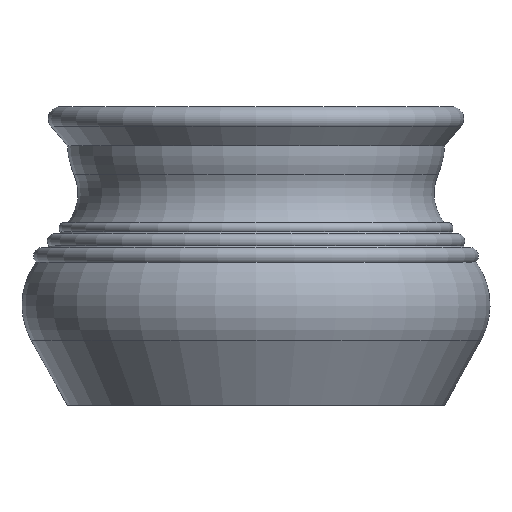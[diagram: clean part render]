
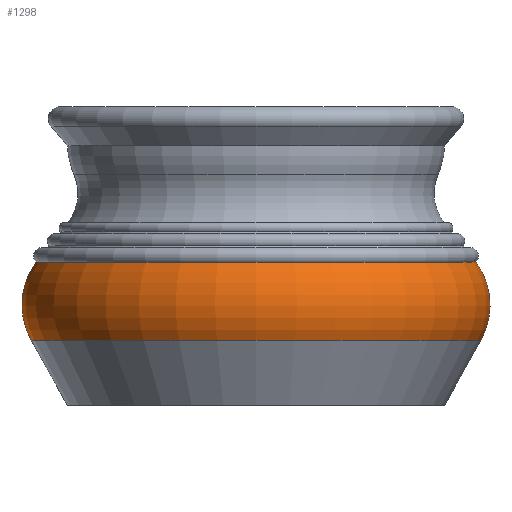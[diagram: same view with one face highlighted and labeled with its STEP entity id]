
A CAD part, front view. The second image highlights one B-rep face of the part: STEP entity #1298.
In plain terms, the highlighted toroidal (fillet/blend) face has major radius 67.45 mm and minor radius 30.55 mm.
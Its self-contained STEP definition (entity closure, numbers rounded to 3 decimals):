
#22=TOROIDAL_SURFACE('',#1475,67.45,30.55);
#164=FACE_OUTER_BOUND('',#280,.T.);
#280=EDGE_LOOP('',(#1187,#1188,#1189,#1190));
#517=CIRCLE('',#1439,94.128);
#539=CIRCLE('',#1476,92.152);
#540=CIRCLE('',#1477,30.55);
#642=VERTEX_POINT('',#2198);
#657=VERTEX_POINT('',#2257);
#805=EDGE_CURVE('',#642,#642,#517,.T.);
#834=EDGE_CURVE('',#657,#657,#539,.T.);
#835=EDGE_CURVE('',#657,#642,#540,.T.);
#1187=ORIENTED_EDGE('',*,*,#834,.F.);
#1188=ORIENTED_EDGE('',*,*,#835,.T.);
#1189=ORIENTED_EDGE('',*,*,#805,.T.);
#1190=ORIENTED_EDGE('',*,*,#835,.F.);
#1298=ADVANCED_FACE('',(#164),#22,.T.);
#1439=AXIS2_PLACEMENT_3D('',#2199,#1805,#1806);
#1475=AXIS2_PLACEMENT_3D('',#2256,#1884,#1885);
#1476=AXIS2_PLACEMENT_3D('',#2258,#1886,#1887);
#1477=AXIS2_PLACEMENT_3D('',#2259,#1888,#1889);
#1805=DIRECTION('center_axis',(0.,0.,1.));
#1806=DIRECTION('ref_axis',(1.,0.,0.));
#1884=DIRECTION('center_axis',(0.,0.,1.));
#1885=DIRECTION('ref_axis',(1.,0.,0.));
#1886=DIRECTION('center_axis',(0.,0.,1.));
#1887=DIRECTION('ref_axis',(1.,0.,0.));
#1888=DIRECTION('center_axis',(0.,-1.,0.));
#1889=DIRECTION('ref_axis',(-1.,0.,0.));
#2198=CARTESIAN_POINT('',(-94.128,0.,27.115));
#2199=CARTESIAN_POINT('Origin',(0.,0.,27.115));
#2256=CARTESIAN_POINT('Origin',(0.,0.,42.));
#2257=CARTESIAN_POINT('',(-92.152,0.,59.976));
#2258=CARTESIAN_POINT('Origin',(0.,0.,59.976));
#2259=CARTESIAN_POINT('Origin',(-67.45,0.,
42.));
